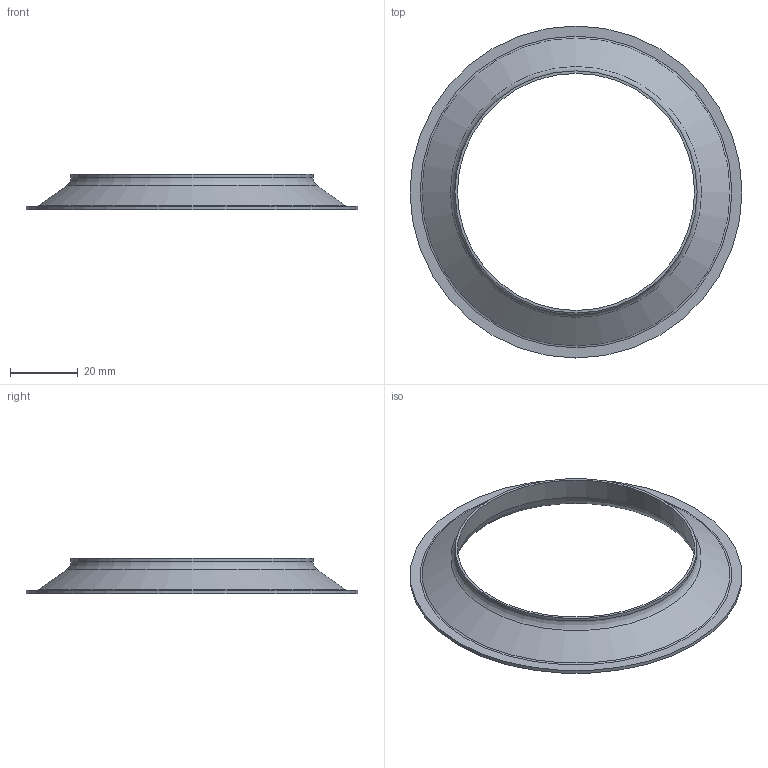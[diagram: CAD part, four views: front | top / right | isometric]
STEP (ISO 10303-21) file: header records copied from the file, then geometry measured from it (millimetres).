
FILE_DESCRIPTION( ('This file contains a STEP AP42 implementation' ,'as created by ZW3D STEP Interface translator.') ,'2;1' );
FILE_NAME( 'KM-70.stp' ,'26 518.133731', (''), ('ZWCAD Software Co.'), 'Version 1.0', 'ZW3D to STEP translator', '' );
FILE_SCHEMA(('AP242_MANAGED_MODEL_BASED_3D_ENGINEERING_MIM_LF { 1 0 10303 442 1 1 4 }'));
Length unit declared in the file: millimetre
Products named in the file (1): 0
Bounding box: 98 x 98 x 10.5 mm (x, y, z)
Volume: 12216.9 mm3; surface area: 10646.2 mm2
Topology: 1 solids, 1 shells, 10 faces, 17 edges, 10 vertices
Faces by surface type: plane 3, torus 3, cylinder 2, cone 2
Full cylindrical faces by diameter (mm): 71.5 x1, 98 x1
Entity records: 276 total; most frequent: DIRECTION 52, CARTESIAN_POINT 38, ORIENTED_EDGE 34, AXIS2_PLACEMENT_3D 24, EDGE_CURVE 17, CIRCLE 13, EDGE_LOOP 13, VERTEX_POINT 10
